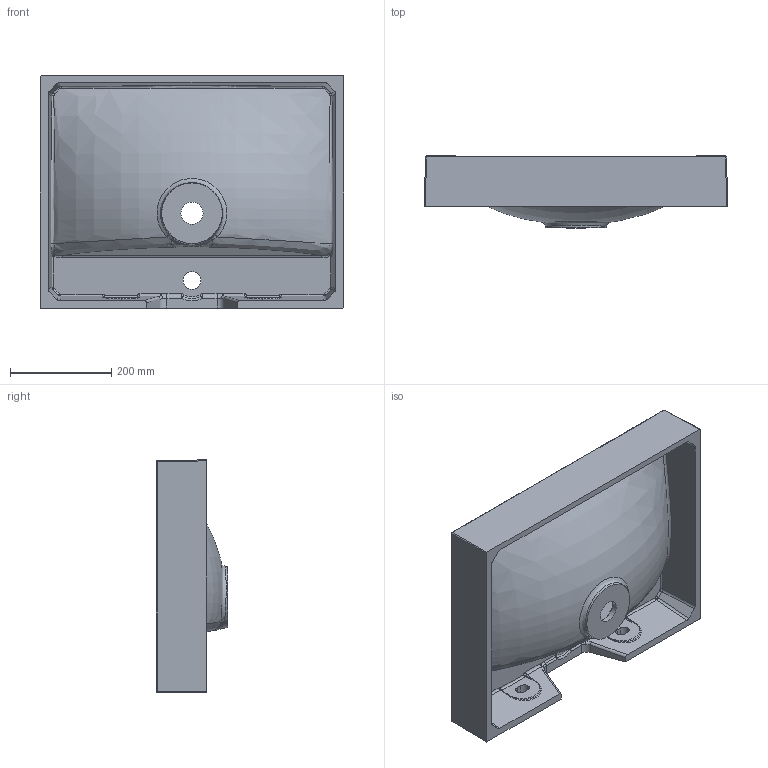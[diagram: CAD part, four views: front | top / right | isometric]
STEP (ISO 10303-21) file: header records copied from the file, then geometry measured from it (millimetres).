
FILE_DESCRIPTION(/* description */ (''),/* implementation_level */ '2;1');
FILE_NAME(/* name */ 'c:\worker\convert-fusion-r05\tmp\job-1\3\output\files\80d50c5a-6c6b-4be1-b546-7e08ae157bd2\ed82d48b-d560-4716-acbc-e0277c118c45.stp',/* time_stamp */ '2020-06-29T09:35:21+00:00',/* author */ (''),/* organization */ (''),/* preprocessor_version */ 'ST-DEVELOPER v18.1',/* originating_system */ 'Autodesk Translation Framework v9.3.0.1241',/* authorisation */ '');
FILE_SCHEMA (('AUTOMOTIVE_DESIGN { 1 0 10303 214 3 1 1 }'));
Length unit declared in the file: millimetre
Products named in the file (1): !NAXOS600
Bounding box: 600 x 142 x 460 mm (x, y, z)
Volume: 7262524 mm3; surface area: 992673.8 mm2
Topology: 1 solids, 1 shells, 163 faces, 421 edges, 251 vertices
Faces by surface type: bspline 76, cylinder 47, plane 28, sphere 6, torus 4, cone 2
Full cylindrical faces by diameter (mm): 35 x1, 44 x1
Entity records: 24061 total; most frequent: CARTESIAN_POINT 20601, ORIENTED_EDGE 824, DIRECTION 579, EDGE_CURVE 412, VERTEX_POINT 251, AXIS2_PLACEMENT_3D 228, EDGE_LOOP 171, FACE_OUTER_BOUND 163
